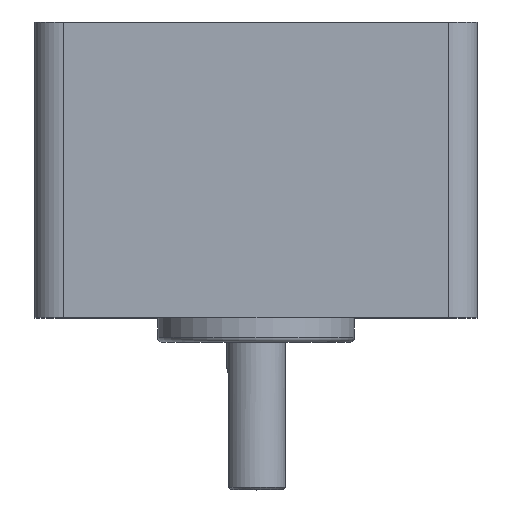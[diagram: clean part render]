
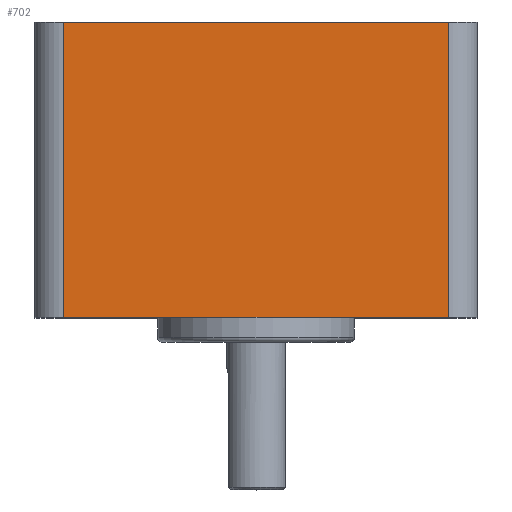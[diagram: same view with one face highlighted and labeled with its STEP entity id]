
A CAD part, top view. The second image highlights one B-rep face of the part: STEP entity #702.
In plain terms, the highlighted planar face has unit normal (0, 0, 1).
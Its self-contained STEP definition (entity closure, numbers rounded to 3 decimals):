
#545=CARTESIAN_POINT('',(-39.0,60.0,45.0));
#546=VERTEX_POINT('',#545);
#554=CARTESIAN_POINT('',(39.0,60.0,45.));
#555=VERTEX_POINT('',#554);
#556=CARTESIAN_POINT('',(39.0,60.0,45.));
#557=DIRECTION('',(-1.0,0.0,0.0));
#558=VECTOR('',#557,78.0);
#559=LINE('',#556,#558);
#560=EDGE_CURVE('',#555,#546,#559,.T.);
#660=CARTESIAN_POINT('',(39.0,0.0,45.));
#661=VERTEX_POINT('',#660);
#662=CARTESIAN_POINT('',(39.0,60.0,45.));
#663=DIRECTION('',(0.0,-1.0,0.0));
#664=VECTOR('',#663,60.0);
#665=LINE('',#662,#664);
#666=EDGE_CURVE('',#555,#661,#665,.T.);
#679=CARTESIAN_POINT('',(45.0,0.0,45.));
#680=DIRECTION('',(0.0,0.0,1.0));
#681=DIRECTION('',(1.0,0.0,0.0));
#682=AXIS2_PLACEMENT_3D('',#679,#680,#681);
#683=PLANE('',#682);
#684=ORIENTED_EDGE('',*,*,#666,.F.);
#685=ORIENTED_EDGE('',*,*,#560,.T.);
#686=CARTESIAN_POINT('',(-39.0,0.0,45.0));
#687=VERTEX_POINT('',#686);
#688=CARTESIAN_POINT('',(-39.0,0.0,45.0));
#689=DIRECTION('',(0.0,1.0,0.0));
#690=VECTOR('',#689,60.0);
#691=LINE('',#688,#690);
#692=EDGE_CURVE('',#687,#546,#691,.T.);
#693=ORIENTED_EDGE('',*,*,#692,.F.);
#694=CARTESIAN_POINT('',(-39.0,0.0,45.0));
#695=DIRECTION('',(1.0,0.0,0.0));
#696=VECTOR('',#695,78.0);
#697=LINE('',#694,#696);
#698=EDGE_CURVE('',#687,#661,#697,.T.);
#699=ORIENTED_EDGE('',*,*,#698,.T.);
#700=EDGE_LOOP('',(#684,#685,#693,#699));
#701=FACE_OUTER_BOUND('',#700,.T.);
#702=ADVANCED_FACE('',(#701),#683,.T.);
